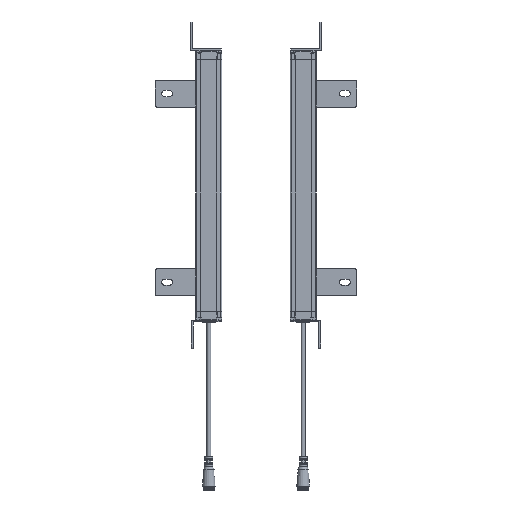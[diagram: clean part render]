
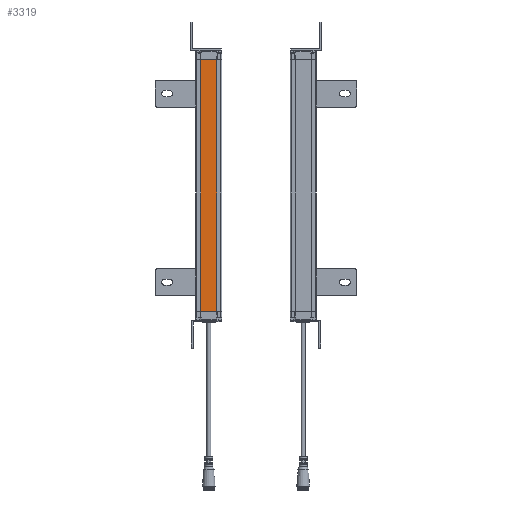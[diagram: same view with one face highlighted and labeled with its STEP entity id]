
A CAD part, left-side view. The second image highlights one B-rep face of the part: STEP entity #3319.
In plain terms, the highlighted planar face has unit normal (-1, 0, 0).
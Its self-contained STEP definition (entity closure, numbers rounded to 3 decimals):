
#1795=FACE_OUTER_BOUND('',#5986,.T.);
#3319=ADVANCED_FACE('',(#1795),#4749,.T.);
#4749=PLANE('',#29857);
#5986=EDGE_LOOP('',(#9184,#9185,#9186,#9187));
#9184=ORIENTED_EDGE('',*,*,#19383,.F.);
#9185=ORIENTED_EDGE('',*,*,#19072,.T.);
#9186=ORIENTED_EDGE('',*,*,#19385,.T.);
#9187=ORIENTED_EDGE('',*,*,#19386,.F.);
#16145=VERTEX_POINT('',#43699);
#16146=VERTEX_POINT('',#43701);
#16357=VERTEX_POINT('',#44323);
#16358=VERTEX_POINT('',#44327);
#19072=EDGE_CURVE('',#16146,#16145,#24663,.T.);
#19383=EDGE_CURVE('',#16146,#16357,#24884,.T.);
#19385=EDGE_CURVE('',#16145,#16358,#24886,.T.);
#19386=EDGE_CURVE('',#16357,#16358,#24887,.T.);
#24663=LINE('',#43700,#27142);
#24884=LINE('',#44322,#27363);
#24886=LINE('',#44326,#27365);
#24887=LINE('',#44328,#27366);
#27142=VECTOR('',#33404,1.);
#27363=VECTOR('',#34005,1.);
#27365=VECTOR('',#34009,1.);
#27366=VECTOR('',#34010,1.);
#29857=AXIS2_PLACEMENT_3D('',#44329,#34011,#34012);
#33404=DIRECTION('',(0.,1.,0.));
#34005=DIRECTION('',(0.,0.,-1.));
#34009=DIRECTION('',(0.,0.,-1.));
#34010=DIRECTION('',(0.,1.,0.));
#34011=DIRECTION('',(-1.,0.,0.));
#34012=DIRECTION('',(0.,1.,0.));
#43699=CARTESIAN_POINT('',(50.4,-5.5,238.059));
#43700=CARTESIAN_POINT('',(50.4,-5.5,238.059));
#43701=CARTESIAN_POINT('',(50.4,-23.5,238.059));
#44322=CARTESIAN_POINT('',(50.4,-23.5,103.059));
#44323=CARTESIAN_POINT('',(50.4,-23.5,-41.941));
#44326=CARTESIAN_POINT('',(50.4,-5.5,103.059));
#44327=CARTESIAN_POINT('',(50.4,-5.5,-41.941));
#44328=CARTESIAN_POINT('',(50.4,-23.5,-41.941));
#44329=CARTESIAN_POINT('',(50.4,-5.5,-61.941));
